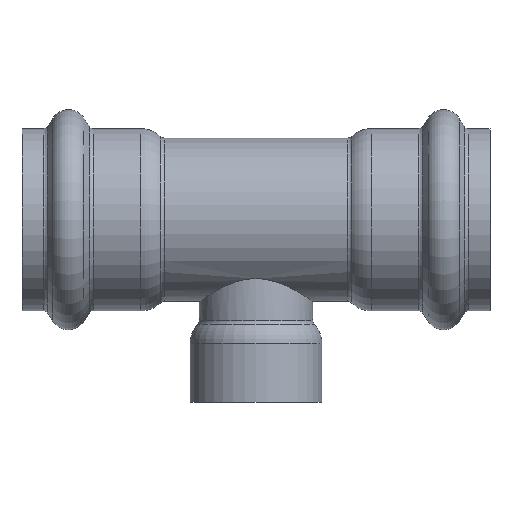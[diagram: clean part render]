
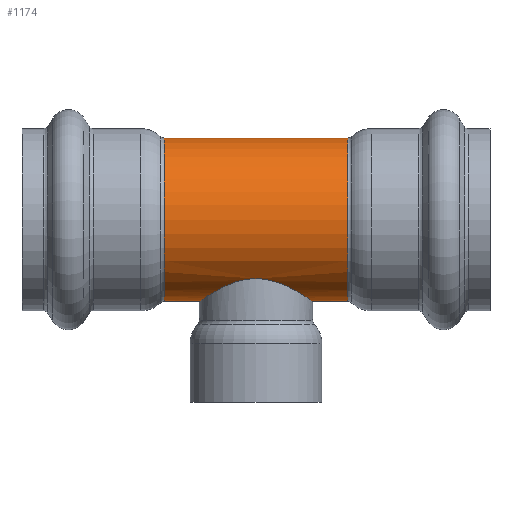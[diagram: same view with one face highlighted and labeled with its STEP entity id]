
A CAD part, top view. The second image highlights one B-rep face of the part: STEP entity #1174.
In plain terms, the highlighted cylindrical face has radius 24.13 mm (diameter 48.26 mm), a full revolution.
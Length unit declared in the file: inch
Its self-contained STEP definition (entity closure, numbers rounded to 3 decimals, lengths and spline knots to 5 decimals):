
#112=FACE_OUTER_BOUND('',#163,.T.);
#163=EDGE_LOOP('',(#924,#925,#926,#927,#928,#929,#930,#931,#932,#933,#934,
#935,#936,#937));
#270=CIRCLE('',#1329,0.95);
#271=CIRCLE('',#1330,0.95);
#272=CIRCLE('',#1331,0.95);
#273=CIRCLE('',#1333,0.95);
#274=CIRCLE('',#1334,0.95);
#275=CIRCLE('',#1335,0.95);
#350=LINE('',#2224,#374);
#351=LINE('',#2225,#375);
#374=VECTOR('',#1686,0.95);
#375=VECTOR('',#1687,0.95);
#384=B_SPLINE_CURVE_WITH_KNOTS('',3,(#1886,#1887,#1888,#1889,#1890,#1891,
#1892,#1893,#1894,#1895,#1896,#1897,#1898,#1899,#1900,#1901),
 .UNSPECIFIED.,.F.,.F.,(4,2,2,2,2,2,2,4),(0.,0.33127,0.66254,
1.32507,1.6519,1.97872,2.30554,2.63236),
 .UNSPECIFIED.);
#385=B_SPLINE_CURVE_WITH_KNOTS('',3,(#1903,#1904,#1905,#1906,#1907,#1908,
#1909,#1910,#1911,#1912,#1913,#1914,#1915,#1916,#1917,#1918),
 .UNSPECIFIED.,.F.,.F.,(4,2,2,2,2,2,2,4),(7.89709,8.22391,
8.55074,8.87756,9.20438,9.86692,10.19819,
10.52946),.UNSPECIFIED.);
#386=B_SPLINE_CURVE_WITH_KNOTS('',3,(#1920,#1921,#1922,#1923,#1924,#1925,
#1926,#1927,#1928,#1929,#1930,#1931,#1932,#1933,#1934,#1935),
 .UNSPECIFIED.,.F.,.F.,(4,2,2,2,2,2,2,4),(5.26473,5.596,
5.92727,6.5898,6.91662,7.24345,7.57027,
7.89709),.UNSPECIFIED.);
#387=B_SPLINE_CURVE_WITH_KNOTS('',3,(#1941,#1942,#1943,#1944,#1945,#1946,
#1947,#1948,#1949,#1950,#1951,#1952,#1953,#1954,#1955,#1956),
 .UNSPECIFIED.,.F.,.F.,(4,2,2,2,2,2,2,4),(2.63236,2.95919,
3.28601,3.61283,3.93965,4.60219,4.93346,
5.26473),.UNSPECIFIED.);
#392=VERTEX_POINT('',#1884);
#393=VERTEX_POINT('',#1885);
#394=VERTEX_POINT('',#1902);
#395=VERTEX_POINT('',#1919);
#472=VERTEX_POINT('',#2211);
#473=VERTEX_POINT('',#2213);
#474=VERTEX_POINT('',#2215);
#475=VERTEX_POINT('',#2219);
#476=VERTEX_POINT('',#2220);
#477=VERTEX_POINT('',#2222);
#528=EDGE_CURVE('',#392,#393,#384,.T.);
#529=EDGE_CURVE('',#394,#392,#385,.T.);
#530=EDGE_CURVE('',#395,#394,#386,.T.);
#534=EDGE_CURVE('',#393,#395,#387,.T.);
#636=EDGE_CURVE('',#473,#472,#270,.T.);
#637=EDGE_CURVE('',#474,#473,#271,.T.);
#638=EDGE_CURVE('',#472,#474,#272,.T.);
#639=EDGE_CURVE('',#475,#476,#273,.T.);
#640=EDGE_CURVE('',#477,#475,#274,.T.);
#641=EDGE_CURVE('',#477,#393,#350,.T.);
#642=EDGE_CURVE('',#394,#474,#351,.T.);
#643=EDGE_CURVE('',#476,#477,#275,.T.);
#924=ORIENTED_EDGE('',*,*,#639,.F.);
#925=ORIENTED_EDGE('',*,*,#640,.F.);
#926=ORIENTED_EDGE('',*,*,#641,.T.);
#927=ORIENTED_EDGE('',*,*,#534,.T.);
#928=ORIENTED_EDGE('',*,*,#530,.T.);
#929=ORIENTED_EDGE('',*,*,#642,.T.);
#930=ORIENTED_EDGE('',*,*,#637,.T.);
#931=ORIENTED_EDGE('',*,*,#636,.T.);
#932=ORIENTED_EDGE('',*,*,#638,.T.);
#933=ORIENTED_EDGE('',*,*,#642,.F.);
#934=ORIENTED_EDGE('',*,*,#529,.T.);
#935=ORIENTED_EDGE('',*,*,#528,.T.);
#936=ORIENTED_EDGE('',*,*,#641,.F.);
#937=ORIENTED_EDGE('',*,*,#643,.F.);
#1089=CYLINDRICAL_SURFACE('',#1332,0.95);
#1174=ADVANCED_FACE('',(#112),#1089,.T.);
#1329=AXIS2_PLACEMENT_3D('',#2214,#1674,#1675);
#1330=AXIS2_PLACEMENT_3D('',#2216,#1676,#1677);
#1331=AXIS2_PLACEMENT_3D('',#2217,#1678,#1679);
#1332=AXIS2_PLACEMENT_3D('',#2218,#1680,#1681);
#1333=AXIS2_PLACEMENT_3D('',#2221,#1682,#1683);
#1334=AXIS2_PLACEMENT_3D('',#2223,#1684,#1685);
#1335=AXIS2_PLACEMENT_3D('',#2226,#1688,#1689);
#1674=DIRECTION('center_axis',(1.,0.,0.));
#1675=DIRECTION('ref_axis',(0.,1.,0.));
#1676=DIRECTION('center_axis',(1.,0.,0.));
#1677=DIRECTION('ref_axis',(0.,1.,0.));
#1678=DIRECTION('center_axis',(1.,0.,0.));
#1679=DIRECTION('ref_axis',(0.,1.,0.));
#1680=DIRECTION('center_axis',(1.,0.,0.));
#1681=DIRECTION('ref_axis',(0.,1.,0.));
#1682=DIRECTION('center_axis',(1.,0.,0.));
#1683=DIRECTION('ref_axis',(0.,1.,0.));
#1684=DIRECTION('center_axis',(1.,0.,0.));
#1685=DIRECTION('ref_axis',(0.,1.,0.));
#1686=DIRECTION('',(-1.,0.,0.));
#1687=DIRECTION('',(-1.,0.,0.));
#1688=DIRECTION('center_axis',(1.,0.,0.));
#1689=DIRECTION('ref_axis',(0.,1.,0.));
#1884=CARTESIAN_POINT('',(0.,-0.68571,0.6575));
#1885=CARTESIAN_POINT('',(0.6575,-0.95,0.));
#1886=CARTESIAN_POINT('Ctrl Pts',(0.,-0.68571,
0.6575));
#1887=CARTESIAN_POINT('Ctrl Pts',(0.04347,-0.68571,
0.6575));
#1888=CARTESIAN_POINT('Ctrl Pts',(0.0875,-0.68997,
0.65313));
#1889=CARTESIAN_POINT('Ctrl Pts',(0.17367,-0.70609,0.63567));
#1890=CARTESIAN_POINT('Ctrl Pts',(0.21583,-0.71789,
0.62259));
#1891=CARTESIAN_POINT('Ctrl Pts',(0.33598,-0.7599,
0.57183));
#1892=CARTESIAN_POINT('Ctrl Pts',(0.40778,-0.79639,
0.52207));
#1893=CARTESIAN_POINT('Ctrl Pts',(0.49311,-0.84428,
0.43673));
#1894=CARTESIAN_POINT('Ctrl Pts',(0.51989,-0.8603,
0.40476));
#1895=CARTESIAN_POINT('Ctrl Pts',(0.56763,-0.88997,0.33453));
#1896=CARTESIAN_POINT('Ctrl Pts',(0.5886,-0.90359,
0.29627));
#1897=CARTESIAN_POINT('Ctrl Pts',(0.62268,-0.92615,
0.21562));
#1898=CARTESIAN_POINT('Ctrl Pts',(0.63582,-0.93511,
0.17314));
#1899=CARTESIAN_POINT('Ctrl Pts',(0.65324,-0.94703,0.08677));
#1900=CARTESIAN_POINT('Ctrl Pts',(0.6575,-0.95,0.04289));
#1901=CARTESIAN_POINT('Ctrl Pts',(0.6575,-0.95,0.));
#1902=CARTESIAN_POINT('',(-0.6575,-0.95,0.));
#1903=CARTESIAN_POINT('Ctrl Pts',(-0.6575,-0.95,0.));
#1904=CARTESIAN_POINT('Ctrl Pts',(-0.6575,-0.95,0.04289));
#1905=CARTESIAN_POINT('Ctrl Pts',(-0.65324,-0.94703,
0.08677));
#1906=CARTESIAN_POINT('Ctrl Pts',(-0.63582,-0.93511,
0.17314));
#1907=CARTESIAN_POINT('Ctrl Pts',(-0.62268,-0.92615,
0.21562));
#1908=CARTESIAN_POINT('Ctrl Pts',(-0.5886,-0.90359,
0.29627));
#1909=CARTESIAN_POINT('Ctrl Pts',(-0.56763,-0.88997,
0.33453));
#1910=CARTESIAN_POINT('Ctrl Pts',(-0.51989,-0.8603,
0.40476));
#1911=CARTESIAN_POINT('Ctrl Pts',(-0.49311,-0.84428,
0.43673));
#1912=CARTESIAN_POINT('Ctrl Pts',(-0.40778,-0.79639,
0.52207));
#1913=CARTESIAN_POINT('Ctrl Pts',(-0.33598,-0.7599,
0.57183));
#1914=CARTESIAN_POINT('Ctrl Pts',(-0.21583,-0.71789,
0.62259));
#1915=CARTESIAN_POINT('Ctrl Pts',(-0.17367,-0.70609,
0.63567));
#1916=CARTESIAN_POINT('Ctrl Pts',(-0.0875,-0.68997,
0.65313));
#1917=CARTESIAN_POINT('Ctrl Pts',(-0.04347,-0.68571,
0.6575));
#1918=CARTESIAN_POINT('Ctrl Pts',(0.,-0.68571,
0.6575));
#1919=CARTESIAN_POINT('',(0.,-0.68571,-0.6575));
#1920=CARTESIAN_POINT('Ctrl Pts',(0.,-0.68571,-0.6575));
#1921=CARTESIAN_POINT('Ctrl Pts',(-0.04347,-0.68571,
-0.6575));
#1922=CARTESIAN_POINT('Ctrl Pts',(-0.0875,-0.68997,
-0.65313));
#1923=CARTESIAN_POINT('Ctrl Pts',(-0.17367,-0.70609,-0.63567));
#1924=CARTESIAN_POINT('Ctrl Pts',(-0.21583,-0.71789,
-0.62259));
#1925=CARTESIAN_POINT('Ctrl Pts',(-0.33598,-0.7599,
-0.57183));
#1926=CARTESIAN_POINT('Ctrl Pts',(-0.40778,-0.79639,
-0.52207));
#1927=CARTESIAN_POINT('Ctrl Pts',(-0.49311,-0.84428,
-0.43673));
#1928=CARTESIAN_POINT('Ctrl Pts',(-0.51989,-0.8603,
-0.40476));
#1929=CARTESIAN_POINT('Ctrl Pts',(-0.56763,-0.88997,
-0.33453));
#1930=CARTESIAN_POINT('Ctrl Pts',(-0.5886,-0.90359,
-0.29627));
#1931=CARTESIAN_POINT('Ctrl Pts',(-0.62268,-0.92615,
-0.21562));
#1932=CARTESIAN_POINT('Ctrl Pts',(-0.63582,-0.93511,
-0.17314));
#1933=CARTESIAN_POINT('Ctrl Pts',(-0.65324,-0.94703,
-0.08677));
#1934=CARTESIAN_POINT('Ctrl Pts',(-0.6575,-0.95,-0.04289));
#1935=CARTESIAN_POINT('Ctrl Pts',(-0.6575,-0.95,0.));
#1941=CARTESIAN_POINT('Ctrl Pts',(0.6575,-0.95,0.));
#1942=CARTESIAN_POINT('Ctrl Pts',(0.6575,-0.95,-0.04289));
#1943=CARTESIAN_POINT('Ctrl Pts',(0.65324,-0.94703,-0.08677));
#1944=CARTESIAN_POINT('Ctrl Pts',(0.63582,-0.93511,
-0.17314));
#1945=CARTESIAN_POINT('Ctrl Pts',(0.62268,-0.92615,
-0.21562));
#1946=CARTESIAN_POINT('Ctrl Pts',(0.5886,-0.90359,
-0.29627));
#1947=CARTESIAN_POINT('Ctrl Pts',(0.56763,-0.88997,-0.33453));
#1948=CARTESIAN_POINT('Ctrl Pts',(0.51989,-0.8603,
-0.40476));
#1949=CARTESIAN_POINT('Ctrl Pts',(0.49311,-0.84428,
-0.43673));
#1950=CARTESIAN_POINT('Ctrl Pts',(0.40778,-0.79639,
-0.52207));
#1951=CARTESIAN_POINT('Ctrl Pts',(0.33598,-0.7599,-0.57183));
#1952=CARTESIAN_POINT('Ctrl Pts',(0.21583,-0.71789,
-0.62259));
#1953=CARTESIAN_POINT('Ctrl Pts',(0.17367,-0.70609,-0.63567));
#1954=CARTESIAN_POINT('Ctrl Pts',(0.0875,-0.68997,
-0.65313));
#1955=CARTESIAN_POINT('Ctrl Pts',(0.04347,-0.68571,
-0.6575));
#1956=CARTESIAN_POINT('Ctrl Pts',(0.,-0.68571,
-0.6575));
#2211=CARTESIAN_POINT('',(-1.06635,0.,0.95));
#2213=CARTESIAN_POINT('',(-1.06635,0.95,0.));
#2214=CARTESIAN_POINT('Origin',(-1.06635,0.,0.));
#2215=CARTESIAN_POINT('',(-1.06635,-0.95,0.));
#2216=CARTESIAN_POINT('Origin',(-1.06635,0.,0.));
#2217=CARTESIAN_POINT('Origin',(-1.06635,0.,0.));
#2218=CARTESIAN_POINT('Origin',(0.53318,0.,0.));
#2219=CARTESIAN_POINT('',(1.06635,0.95,0.));
#2220=CARTESIAN_POINT('',(1.06635,0.,0.95));
#2221=CARTESIAN_POINT('Origin',(1.06635,0.,0.));
#2222=CARTESIAN_POINT('',(1.06635,-0.95,0.));
#2223=CARTESIAN_POINT('Origin',(1.06635,0.,0.));
#2224=CARTESIAN_POINT('',(0.53318,-0.95,0.));
#2225=CARTESIAN_POINT('',(0.53318,-0.95,0.));
#2226=CARTESIAN_POINT('Origin',(1.06635,0.,0.));
